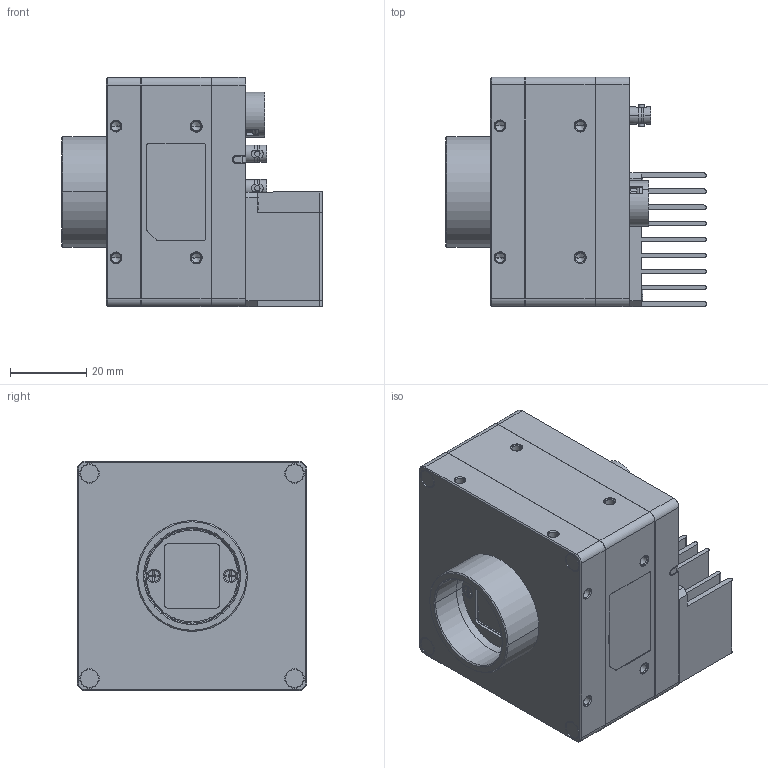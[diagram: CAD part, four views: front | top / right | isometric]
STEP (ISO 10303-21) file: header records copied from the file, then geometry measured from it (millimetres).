
FILE_DESCRIPTION((''),'2;1');
FILE_NAME('2222222222222','2025-12-10T21:13:04',('wangyijun6'),(''),'CREO PARAMETRIC BY PTC INC, 2020044','CREO PARAMETRIC BY PTC INC, 2020044','');
FILE_SCHEMA(('CONFIG_CONTROL_DESIGN'));
Products named in the file (1): 2222222222222
Bounding box: 68.22 x 60 x 60 mm (x, y, z)
Volume: 116580.3 mm3; surface area: 55161.9 mm2
Topology: 1 solids, 69 shells, 2371 faces, 6303 edges, 4026 vertices
Faces by surface type: plane 1009, cylinder 847, cone 349, torus 122, bspline 44
Entity records: 107215 total; most frequent: CARTESIAN_POINT 48130, DIRECTION 12461, ORIENTED_EDGE 12254, EDGE_CURVE 6239, AXIS2_PLACEMENT_3D 4686, VERTEX_POINT 4026, VECTOR 3089, LINE 3089
